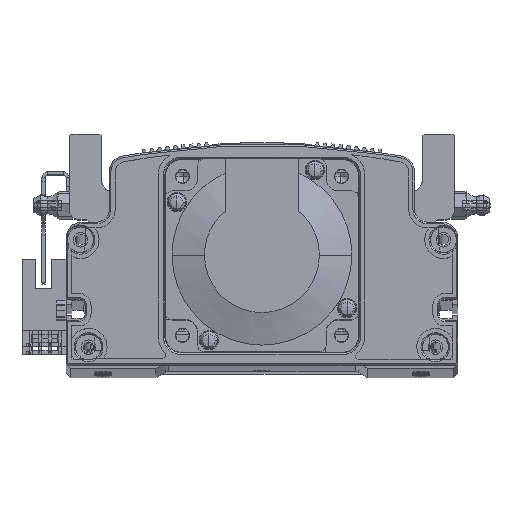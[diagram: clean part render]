
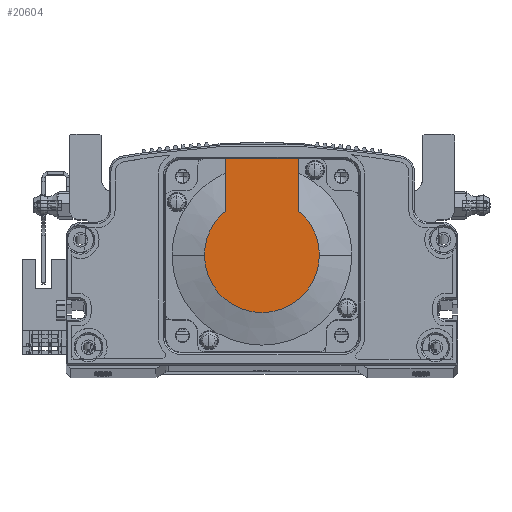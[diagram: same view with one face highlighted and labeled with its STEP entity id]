
A CAD part, top view. The second image highlights one B-rep face of the part: STEP entity #20604.
In plain terms, the highlighted planar face has unit normal (0, 0, 1) as drawn and (-1, 0, 0) by its records, which use the part's own axes.
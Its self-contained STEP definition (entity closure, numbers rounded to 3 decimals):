
#1028 = CARTESIAN_POINT ( 'NONE',  ( -118.5, 0., -17.881 ) ) ;
#1998 = DIRECTION ( 'NONE',  ( 0., -1., 0. ) ) ;
#2397 = VECTOR ( 'NONE', #1998, 1000. ) ;
#3526 = ORIENTED_EDGE ( 'NONE', *, *, #75655, .T. ) ;
#3562 = VECTOR ( 'NONE', #51174, 1000. ) ;
#6951 = CARTESIAN_POINT ( 'NONE',  ( -118.5, 0., 0. ) ) ;
#8450 = CARTESIAN_POINT ( 'NONE',  ( -118.5, 0., 11.45 ) ) ;
#9316 = CARTESIAN_POINT ( 'NONE',  ( -118.5, -8.941, 0. ) ) ;
#9621 = DIRECTION ( 'NONE',  ( 0., 0., 1. ) ) ;
#12681 = CIRCLE ( 'NONE', #51873, 17.881 ) ;
#14453 = EDGE_CURVE ( 'NONE', #53170, #84651, #12681, .T. ) ;
#16407 = DIRECTION ( 'NONE',  ( 0., 0., -1. ) ) ;
#20604 = ADVANCED_FACE ( 'NONE', ( #84403 ), #51280, .T. ) ;
#21048 = LINE ( 'NONE', #30346, #3562 ) ;
#24148 = DIRECTION ( 'NONE',  ( -1., 0., 0. ) ) ;
#27448 = DIRECTION ( 'NONE',  ( -1., 0., 0. ) ) ;
#28672 = EDGE_CURVE ( 'NONE', #29985, #45521, #33333, .T. ) ;
#29963 = ORIENTED_EDGE ( 'NONE', *, *, #85459, .T. ) ;
#29985 = VERTEX_POINT ( 'NONE', #62440 ) ;
#30346 = CARTESIAN_POINT ( 'NONE',  ( -118.5, -8.941, -11.45 ) ) ;
#30631 = DIRECTION ( 'NONE',  ( 0., 0., -1. ) ) ;
#33333 = LINE ( 'NONE', #76506, #72800 ) ;
#33646 = CIRCLE ( 'NONE', #60603, 17.881 ) ;
#34804 = DIRECTION ( 'NONE',  ( 0., 0., 1. ) ) ;
#37563 = ORIENTED_EDGE ( 'NONE', *, *, #81885, .T. ) ;
#38714 = VERTEX_POINT ( 'NONE', #50102 ) ;
#40233 = ORIENTED_EDGE ( 'NONE', *, *, #14453, .T. ) ;
#41106 = AXIS2_PLACEMENT_3D ( 'NONE', #9316, #72405, #9621 ) ;
#42274 = DIRECTION ( 'NONE',  ( 0., 0., -1. ) ) ;
#45521 = VERTEX_POINT ( 'NONE', #88156 ) ;
#50102 = CARTESIAN_POINT ( 'NONE',  ( -118.5, 13.735, -11.45 ) ) ;
#51174 = DIRECTION ( 'NONE',  ( 0., -1., 0. ) ) ;
#51280 = PLANE ( 'NONE',  #41106 ) ;
#51288 = CIRCLE ( 'NONE', #75119, 17.881 ) ;
#51873 = AXIS2_PLACEMENT_3D ( 'NONE', #6951, #27448, #42274 ) ;
#52661 = CARTESIAN_POINT ( 'NONE',  ( -118.5, 0., 0. ) ) ;
#53170 = VERTEX_POINT ( 'NONE', #85806 ) ;
#58760 = EDGE_LOOP ( 'NONE', ( #29963, #37563, #3526, #40233, #84037, #74245 ) ) ;
#60603 = AXIS2_PLACEMENT_3D ( 'NONE', #86342, #64238, #16407 ) ;
#62440 = CARTESIAN_POINT ( 'NONE',  ( -118.5, 30., -11.45 ) ) ;
#64238 = DIRECTION ( 'NONE',  ( -1., 0., 0. ) ) ;
#69033 = VERTEX_POINT ( 'NONE', #1028 ) ;
#72405 = DIRECTION ( 'NONE',  ( -1., 0., 0. ) ) ;
#72800 = VECTOR ( 'NONE', #34804, 1000. ) ;
#74245 = ORIENTED_EDGE ( 'NONE', *, *, #28672, .F. ) ;
#75119 = AXIS2_PLACEMENT_3D ( 'NONE', #52661, #24148, #30631 ) ;
#75655 = EDGE_CURVE ( 'NONE', #69033, #53170, #33646, .T. ) ;
#76506 = CARTESIAN_POINT ( 'NONE',  ( -118.5, 30., 25. ) ) ;
#79166 = LINE ( 'NONE', #8450, #2397 ) ;
#81885 = EDGE_CURVE ( 'NONE', #38714, #69033, #51288, .T. ) ;
#83654 = CARTESIAN_POINT ( 'NONE',  ( -118.5, 13.735, 11.45 ) ) ;
#84037 = ORIENTED_EDGE ( 'NONE', *, *, #89783, .F. ) ;
#84403 = FACE_OUTER_BOUND ( 'NONE', #58760, .T. ) ;
#84651 = VERTEX_POINT ( 'NONE', #83654 ) ;
#85459 = EDGE_CURVE ( 'NONE', #29985, #38714, #21048, .T. ) ;
#85806 = CARTESIAN_POINT ( 'NONE',  ( -118.5, 0., 17.881 ) ) ;
#86342 = CARTESIAN_POINT ( 'NONE',  ( -118.5, 0., 0. ) ) ;
#88156 = CARTESIAN_POINT ( 'NONE',  ( -118.5, 30., 11.45 ) ) ;
#89783 = EDGE_CURVE ( 'NONE', #45521, #84651, #79166, .T. ) ;
